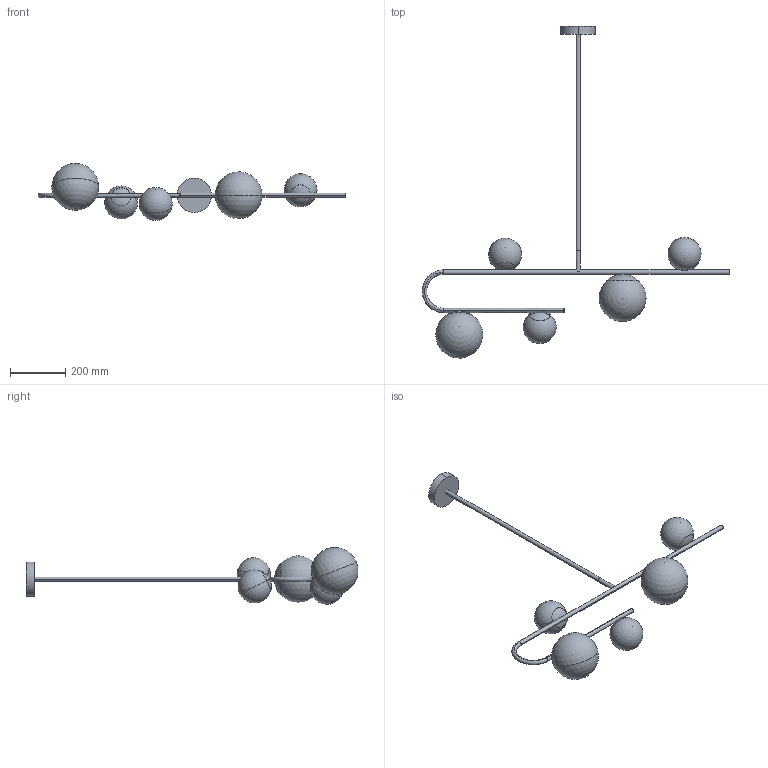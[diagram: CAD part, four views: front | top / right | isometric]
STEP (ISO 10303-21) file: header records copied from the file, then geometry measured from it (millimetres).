
FILE_DESCRIPTION (( 'STEP AP203' ), '1' );
FILE_NAME ('DECH1_Decor sospensione 124h.STEP', '2024-08-06T08:45:08', ( '' ), ( '' ), 'SwSTEP 2.0', 'SolidWorks 2022', '' );
FILE_SCHEMA (( 'CONFIG_CONTROL_DESIGN' ));
Length unit declared in the file: millimetre
Products named in the file (2): DECOR SOSPENSIONE2 124_DECOR SOSPENSIONE2 124; DECH1_Decor sospensione 124h
Assembly tree (1 placements, depth 2):
  DECH1_Decor sospensione 124h
    DECOR SOSPENSIONE2 124_DECOR SOSPENSIONE2 124
Bounding box: 1115.91 x 1205.38 x 206.55 mm (x, y, z)
Volume: 8779125.4 mm3; surface area: 558561.2 mm2
Topology: 14 solids, 14 shells, 64 faces, 143 edges, 97 vertices
Faces by surface type: sphere 30, cone 10, cylinder 8, plane 8, bspline 6, torus 2
Entity records: 2478 total; most frequent: CARTESIAN_POINT 972, DIRECTION 318, ORIENTED_EDGE 236, AXIS2_PLACEMENT_3D 150, EDGE_CURVE 118, CIRCLE 88, VERTEX_POINT 82, ADVANCED_FACE 64
